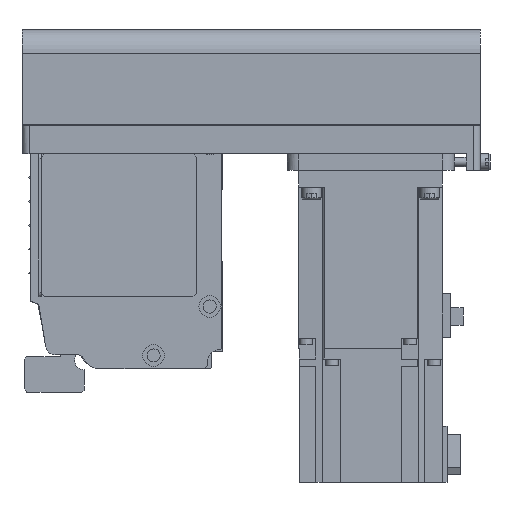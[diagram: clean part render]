
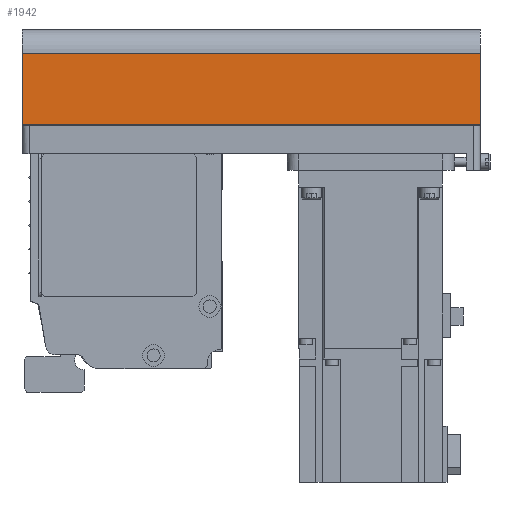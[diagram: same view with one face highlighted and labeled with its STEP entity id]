
A CAD part, left-side view. The second image highlights one B-rep face of the part: STEP entity #1942.
In plain terms, the highlighted planar face has unit normal (-1, 0, 0) as drawn and (0, -1, 0) by its records, which use the part's own axes.
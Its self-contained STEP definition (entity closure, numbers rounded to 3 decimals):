
#1942 = ADVANCED_FACE( '', ( #4117 ), #4118, .T. );
#4117 = FACE_OUTER_BOUND( '', #6485, .T. );
#4118 = PLANE( '', #6486 );
#6485 = EDGE_LOOP( '', ( #11857, #11858, #11859, #11860 ) );
#6486 = AXIS2_PLACEMENT_3D( '', #11861, #11862, #11863 );
#11857 = ORIENTED_EDGE( '', *, *, #15346, .F. );
#11858 = ORIENTED_EDGE( '', *, *, #15644, .F. );
#11859 = ORIENTED_EDGE( '', *, *, #15092, .T. );
#11860 = ORIENTED_EDGE( '', *, *, #15645, .T. );
#11861 = CARTESIAN_POINT( '', ( -192., -40., -12.1 ) );
#11862 = DIRECTION( '', ( 0., -1., 0. ) );
#11863 = DIRECTION( '', ( 0., 0., -1. ) );
#15092 = EDGE_CURVE( '', #18553, #18558, #18560, .T. );
#15346 = EDGE_CURVE( '', #18739, #18899, #18900, .T. );
#15644 = EDGE_CURVE( '', #18553, #18739, #19274, .T. );
#15645 = EDGE_CURVE( '', #18558, #18899, #19275, .T. );
#18553 = VERTEX_POINT( '', #23091 );
#18558 = VERTEX_POINT( '', #23099 );
#18560 = LINE( '', #23101, #23102 );
#18739 = VERTEX_POINT( '', #23349 );
#18899 = VERTEX_POINT( '', #23572 );
#18900 = LINE( '', #23573, #23574 );
#19274 = LINE( '', #24077, #24078 );
#19275 = LINE( '', #24079, #24080 );
#23091 = CARTESIAN_POINT( '', ( -192., -40., -12.1 ) );
#23099 = CARTESIAN_POINT( '', ( -192., -40., -42. ) );
#23101 = CARTESIAN_POINT( '', ( -192., -40., -12.1 ) );
#23102 = VECTOR( '', #26490, 1000. );
#23349 = CARTESIAN_POINT( '', ( 0., -40., -12.1 ) );
#23572 = CARTESIAN_POINT( '', ( 0., -40., -42. ) );
#23573 = CARTESIAN_POINT( '', ( 0., -40., -12.1 ) );
#23574 = VECTOR( '', #26793, 1000. );
#24077 = CARTESIAN_POINT( '', ( -192., -40., -12.1 ) );
#24078 = VECTOR( '', #27094, 1000. );
#24079 = CARTESIAN_POINT( '', ( -192., -40., -42. ) );
#24080 = VECTOR( '', #27095, 1000. );
#26490 = DIRECTION( '', ( 0., 0., -1. ) );
#26793 = DIRECTION( '', ( 0., 0., -1. ) );
#27094 = DIRECTION( '', ( 1., 0., 0. ) );
#27095 = DIRECTION( '', ( 1., 0., 0. ) );
